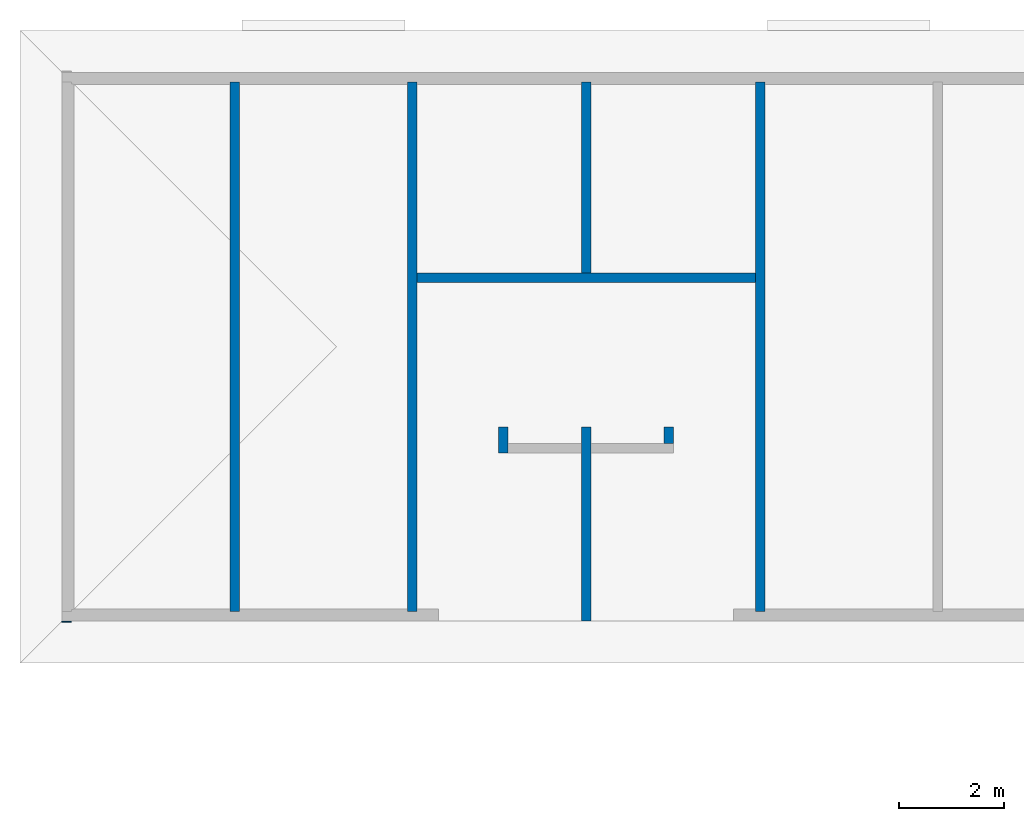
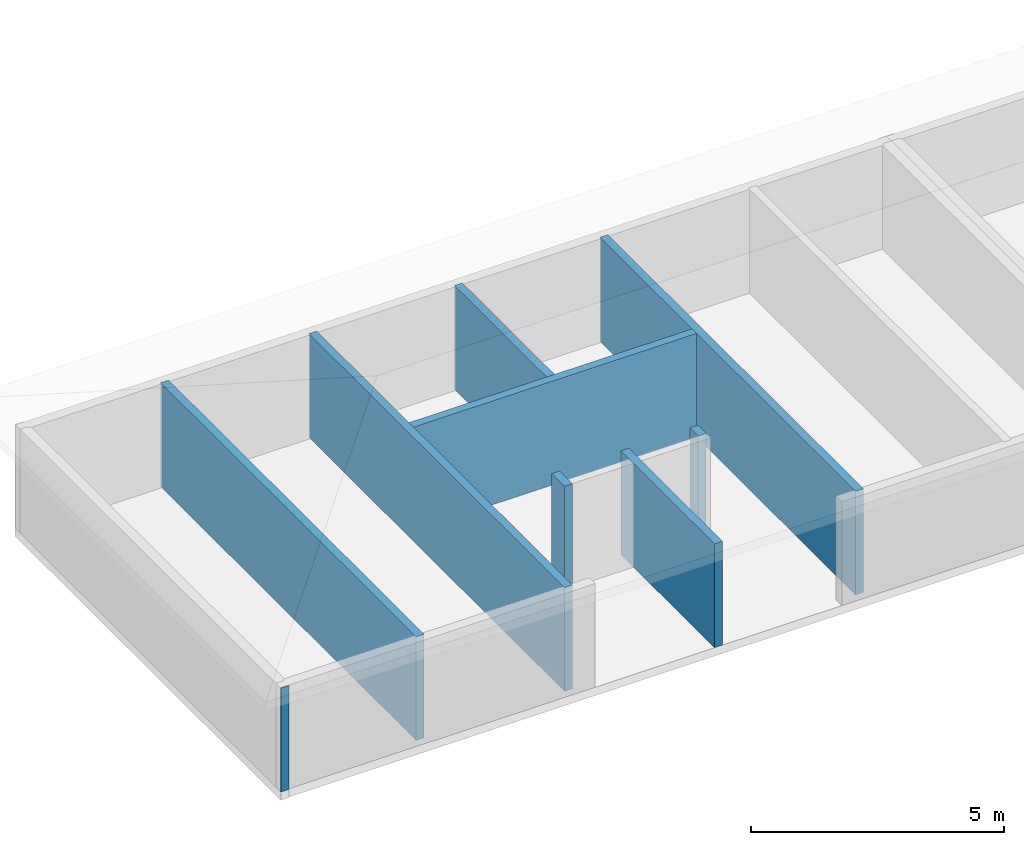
# One storey, part 1 of 10: 9 walls.
"""IFC2X3 building model written with IfcOpenShell, lengths in metres."""

from ifc_helpers import new_model, si_unit, frame, frame_2d, origin, origin_with_axes, place, context, project, spatial, rectangle, extrude, element, save


model = new_model("IFC2X3")

# Units and contexts
model_context = context("Model", 3, precision=1e-06, world=origin())
ifc_project = project(units=[si_unit("LENGTHUNIT", "METRE"), si_unit("PLANEANGLEUNIT", "RADIAN")], contexts=[model_context])

# Site, building, storey
site = spatial("IfcSite", under=ifc_project, CompositionType="ELEMENT")
building = spatial("IfcBuilding", under=site, CompositionType="ELEMENT")
storey = spatial("IfcBuildingStorey", under=building, Name="r+3", CompositionType="ELEMENT", Elevation=8.1)

# Walls
placement = place(None, origin())
wall_1_placement = place(placement, frame((11.46999945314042, 3.720077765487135, 8.1), z_axis=(0.0, 0.0, 1.0), x_axis=(0.0, -1.0, 0.0)))
element("IfcWall", 1, at=wall_1_placement, inside=storey, context=model_context, shape_type="SweptSolid", body=[
    extrude(rectangle(XDim=0.32, YDim=0.18, at=frame_2d((0.16, 0.09), x_axis=(1.0, 0.0)), kind="CURVE"), origin_with_axes(), (0.0, 0.0, 1.0), 2.5),
])
wall_2_placement = place(placement, frame((10.075000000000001, 6.650077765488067, 8.1), z_axis=(0.0, 0.0, 1.0), x_axis=(0.0, 1.0, 0.0)))
element("IfcWall", 2, at=wall_2_placement, inside=storey, context=model_context, shape_type="SweptSolid", body=[
    extrude(rectangle(XDim=3.639999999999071, YDim=0.18, at=frame_2d((1.819999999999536, 0.09), x_axis=(1.0, 0.0)), kind="CURVE"), origin_with_axes(), (0.0, 0.0, 1.0), 2.5),
])
wall_3_placement = place(placement, frame((13.20999947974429, 6.650077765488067, 8.1), z_axis=(0.0, 0.0, 1.0), x_axis=(-1.0, 0.0, 0.0)))
element("IfcWall", 3, at=wall_3_placement, inside=storey, context=model_context, shape_type="SweptSolid", body=[
    extrude(rectangle(XDim=6.449999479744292, YDim=0.18, at=frame_2d((3.224999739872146, 0.09), x_axis=(1.0, 0.0)), kind="CURVE"), origin_with_axes(), (0.0, 0.0, 1.0), 2.5),
])
wall_4_placement = place(placement, frame((10.075000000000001, 0.020038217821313, 8.1), z_axis=(0.0, 0.0, 1.0), x_axis=(0.0, 1.0, 0.0)))
element("IfcWall", 4, at=wall_4_placement, inside=storey, context=model_context, shape_type="SweptSolid", body=[
    extrude(rectangle(XDim=3.700039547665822, YDim=0.18, at=frame_2d((1.850019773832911, 0.09), x_axis=(1.0, 0.0)), kind="CURVE"), origin_with_axes(), (0.0, 0.0, 1.0), 2.5),
])
wall_5_placement = place(placement, frame((-6e-15, 0.020077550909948, 8.1), z_axis=(0.0, 0.0, 1.0), x_axis=(1.0, 0.0, 0.0)))
element("IfcWall", 5, at=wall_5_placement, inside=storey, context=model_context, shape_type="SweptSolid", body=[
    extrude(rectangle(XDim=0.18, YDim=0.020077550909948, at=frame_2d((0.09, 0.010038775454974), x_axis=(1.0, 0.0)), kind="CURVE"), frame((0.0, -0.020077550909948, 0.0), z_axis=(0.0, 0.0, 1.0), x_axis=(1.0, 0.0, 0.0)), (0.0, 0.0, 1.0), 2.5),
])
wall_6_placement = place(placement, frame((8.499999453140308, 3.220077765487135, 8.1), z_axis=(0.0, 0.0, 1.0), x_axis=(0.0, 1.0, 0.0)))
element("IfcWall", 6, at=wall_6_placement, inside=storey, context=model_context, shape_type="SweptSolid", body=[
    extrude(rectangle(XDim=0.5, YDim=0.18, at=frame_2d((0.25, 0.09), x_axis=(1.0, 0.0)), kind="CURVE"), origin_with_axes(), (0.0, 0.0, 1.0), 2.5),
])
for number, where, z_axis, x_axis in (
    (7, (13.38999993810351, 0.200077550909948, 8.1), (0.0, 0.0, 1.0), (0.0, 1.0, 0.0)),
    (8, (3.38, 0.200077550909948, 8.1), (0.0, 0.0, 1.0), (0.0, 1.0, 0.0)),
    (9, (6.759999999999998, 0.200077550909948, 8.1), (0.0, 0.0, 1.0), (0.0, 1.0, 0.0)),
):
    element("IfcWall", number, at=place(placement, frame(where, z_axis=z_axis, x_axis=x_axis)), inside=storey, context=model_context, shape_type="SweptSolid", body=[
        extrude(rectangle(XDim=10.090000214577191, YDim=0.18, at=frame_2d((5.045000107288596, 0.09), x_axis=(1.0, 0.0)), kind="CURVE"), origin_with_axes(), (0.0, 0.0, 1.0), 2.5),
    ])

save(model, "model.ifc")
